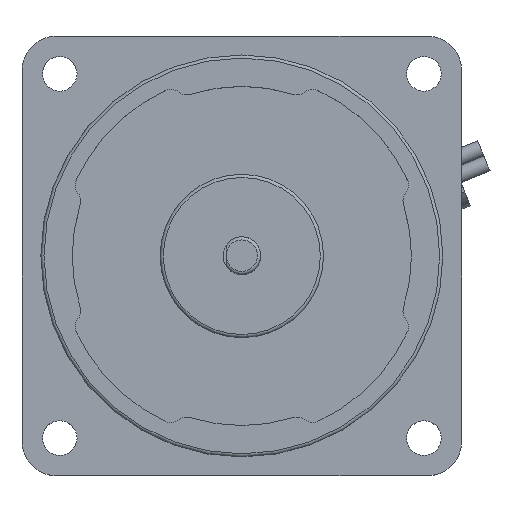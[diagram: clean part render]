
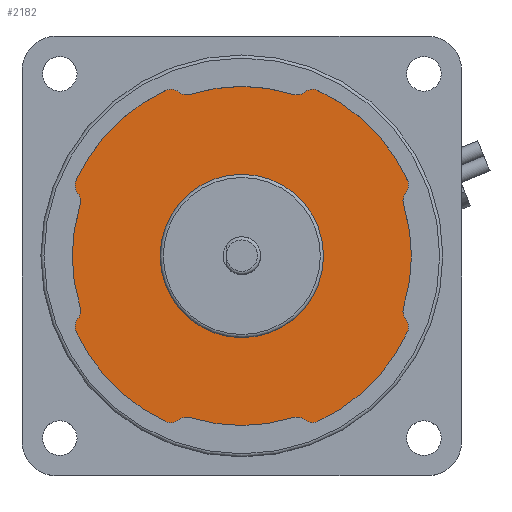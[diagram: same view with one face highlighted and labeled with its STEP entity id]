
A CAD part, top view. The second image highlights one B-rep face of the part: STEP entity #2182.
In plain terms, the highlighted planar face has unit normal (0, 0, 1).
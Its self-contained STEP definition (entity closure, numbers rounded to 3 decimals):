
#1141=CARTESIAN_POINT('',(26.096,-10.,76.));
#1142=VERTEX_POINT('',#1141);
#1158=CARTESIAN_POINT('',(25.744,-8.139,76.0));
#1159=VERTEX_POINT('',#1158);
#1166=CARTESIAN_POINT('',(27.651,-8.742,76.));
#1167=DIRECTION('',(0.0,0.0,-1.));
#1168=DIRECTION('',(-0.903,-0.43,0.0));
#1169=AXIS2_PLACEMENT_3D('',#1166,#1167,#1168);
#1170=CIRCLE('',#1169,2.0);
#1171=EDGE_CURVE('',#1159,#1142,#1170,.F.);
#1181=CARTESIAN_POINT('',(25.744,8.139,76.0));
#1182=VERTEX_POINT('',#1181);
#1191=CARTESIAN_POINT('',(0.,0.,76.0));
#1192=DIRECTION('',(0.0,0.0,1.0));
#1193=DIRECTION('',(-0.93,0.367,0.0));
#1194=AXIS2_PLACEMENT_3D('',#1191,#1192,#1193);
#1195=CIRCLE('',#1194,27.);
#1196=EDGE_CURVE('',#1159,#1182,#1195,.T.);
#1214=CARTESIAN_POINT('',(26.096,10.,76.));
#1215=VERTEX_POINT('',#1214);
#1224=CARTESIAN_POINT('',(27.651,8.742,76.));
#1225=DIRECTION('',(0.0,0.0,-1.));
#1226=DIRECTION('',(-0.903,0.43,0.0));
#1227=AXIS2_PLACEMENT_3D('',#1224,#1225,#1226);
#1228=CIRCLE('',#1227,2.0);
#1229=EDGE_CURVE('',#1215,#1182,#1228,.F.);
#1256=CARTESIAN_POINT('',(26.359,12.092,76.0));
#1257=VERTEX_POINT('',#1256);
#1264=CARTESIAN_POINT('',(24.541,11.258,76.));
#1265=DIRECTION('',(0.0,0.0,1.0));
#1266=DIRECTION('',(-0.777,0.629,0.0));
#1267=AXIS2_PLACEMENT_3D('',#1264,#1265,#1266);
#1268=CIRCLE('',#1267,2.);
#1269=EDGE_CURVE('',#1215,#1257,#1268,.T.);
#1290=CARTESIAN_POINT('',(12.092,26.359,76.0));
#1291=VERTEX_POINT('',#1290);
#1298=CARTESIAN_POINT('',(0.0,0.0,76.0));
#1299=DIRECTION('',(0.0,0.0,1.0));
#1300=DIRECTION('',(-0.93,-0.367,0.0));
#1301=AXIS2_PLACEMENT_3D('',#1298,#1299,#1300);
#1302=CIRCLE('',#1301,29.);
#1303=EDGE_CURVE('',#1257,#1291,#1302,.T.);
#1322=CARTESIAN_POINT('',(10.,26.096,76.));
#1323=VERTEX_POINT('',#1322);
#1330=CARTESIAN_POINT('',(11.258,24.541,76.));
#1331=DIRECTION('',(0.0,0.0,1.));
#1332=DIRECTION('',(-0.417,-0.909,0.0));
#1333=AXIS2_PLACEMENT_3D('',#1330,#1331,#1332);
#1334=CIRCLE('',#1333,2.);
#1335=EDGE_CURVE('',#1291,#1323,#1334,.T.);
#1356=CARTESIAN_POINT('',(8.139,25.744,76.0));
#1357=VERTEX_POINT('',#1356);
#1364=CARTESIAN_POINT('',(8.742,27.651,76.));
#1365=DIRECTION('',(0.0,0.0,-1.));
#1366=DIRECTION('',(0.43,-0.903,0.0));
#1367=AXIS2_PLACEMENT_3D('',#1364,#1365,#1366);
#1368=CIRCLE('',#1367,2.0);
#1369=EDGE_CURVE('',#1357,#1323,#1368,.F.);
#1389=CARTESIAN_POINT('',(-8.139,25.744,76.0));
#1390=VERTEX_POINT('',#1389);
#1397=CARTESIAN_POINT('',(0.,0.,76.0));
#1398=DIRECTION('',(0.0,0.0,1.0));
#1399=DIRECTION('',(-0.367,-0.93,0.0));
#1400=AXIS2_PLACEMENT_3D('',#1397,#1398,#1399);
#1401=CIRCLE('',#1400,27.);
#1402=EDGE_CURVE('',#1357,#1390,#1401,.T.);
#1412=CARTESIAN_POINT('',(-10.,26.096,76.));
#1413=VERTEX_POINT('',#1412);
#1422=CARTESIAN_POINT('',(-8.742,27.651,76.));
#1423=DIRECTION('',(0.0,0.0,-1.));
#1424=DIRECTION('',(-0.43,-0.903,0.0));
#1425=AXIS2_PLACEMENT_3D('',#1422,#1423,#1424);
#1426=CIRCLE('',#1425,2.0);
#1427=EDGE_CURVE('',#1413,#1390,#1426,.F.);
#1454=CARTESIAN_POINT('',(-12.092,26.359,76.0));
#1455=VERTEX_POINT('',#1454);
#1462=CARTESIAN_POINT('',(-11.258,24.541,76.));
#1463=DIRECTION('',(0.0,0.0,1.0));
#1464=DIRECTION('',(-0.629,-0.777,0.0));
#1465=AXIS2_PLACEMENT_3D('',#1462,#1463,#1464);
#1466=CIRCLE('',#1465,2.);
#1467=EDGE_CURVE('',#1413,#1455,#1466,.T.);
#1478=CARTESIAN_POINT('',(-26.359,12.092,76.0));
#1479=VERTEX_POINT('',#1478);
#1488=CARTESIAN_POINT('',(0.0,0.0,76.0));
#1489=DIRECTION('',(0.0,0.0,1.0));
#1490=DIRECTION('',(0.367,-0.93,0.0));
#1491=AXIS2_PLACEMENT_3D('',#1488,#1489,#1490);
#1492=CIRCLE('',#1491,29.);
#1493=EDGE_CURVE('',#1455,#1479,#1492,.T.);
#1520=CARTESIAN_POINT('',(-26.096,10.,76.));
#1521=VERTEX_POINT('',#1520);
#1528=CARTESIAN_POINT('',(-24.541,11.258,76.));
#1529=DIRECTION('',(0.0,0.0,1.0));
#1530=DIRECTION('',(0.909,-0.417,0.0));
#1531=AXIS2_PLACEMENT_3D('',#1528,#1529,#1530);
#1532=CIRCLE('',#1531,2.);
#1533=EDGE_CURVE('',#1479,#1521,#1532,.T.);
#1554=CARTESIAN_POINT('',(-25.744,8.139,76.0));
#1555=VERTEX_POINT('',#1554);
#1562=CARTESIAN_POINT('',(-27.651,8.742,76.));
#1563=DIRECTION('',(0.0,0.0,-1.));
#1564=DIRECTION('',(0.903,0.43,0.0));
#1565=AXIS2_PLACEMENT_3D('',#1562,#1563,#1564);
#1566=CIRCLE('',#1565,2.);
#1567=EDGE_CURVE('',#1555,#1521,#1566,.F.);
#1577=CARTESIAN_POINT('',(-25.744,-8.139,76.0));
#1578=VERTEX_POINT('',#1577);
#1587=CARTESIAN_POINT('',(0.,0.,76.0));
#1588=DIRECTION('',(0.0,0.0,1.));
#1589=DIRECTION('',(0.93,-0.367,0.0));
#1590=AXIS2_PLACEMENT_3D('',#1587,#1588,#1589);
#1591=CIRCLE('',#1590,27.0);
#1592=EDGE_CURVE('',#1555,#1578,#1591,.T.);
#1610=CARTESIAN_POINT('',(-26.096,-10.,76.));
#1611=VERTEX_POINT('',#1610);
#1620=CARTESIAN_POINT('',(-27.651,-8.742,76.));
#1621=DIRECTION('',(0.0,0.0,-1.));
#1622=DIRECTION('',(0.903,-0.43,0.0));
#1623=AXIS2_PLACEMENT_3D('',#1620,#1621,#1622);
#1624=CIRCLE('',#1623,2.);
#1625=EDGE_CURVE('',#1611,#1578,#1624,.F.);
#1652=CARTESIAN_POINT('',(-26.359,-12.092,76.0));
#1653=VERTEX_POINT('',#1652);
#1660=CARTESIAN_POINT('',(-24.541,-11.258,76.));
#1661=DIRECTION('',(0.0,0.0,1.0));
#1662=DIRECTION('',(0.777,-0.629,0.0));
#1663=AXIS2_PLACEMENT_3D('',#1660,#1661,#1662);
#1664=CIRCLE('',#1663,2.);
#1665=EDGE_CURVE('',#1611,#1653,#1664,.T.);
#1676=CARTESIAN_POINT('',(-12.092,-26.359,76.0));
#1677=VERTEX_POINT('',#1676);
#1686=CARTESIAN_POINT('',(0.0,0.0,76.0));
#1687=DIRECTION('',(0.0,0.0,1.0));
#1688=DIRECTION('',(0.93,0.367,0.0));
#1689=AXIS2_PLACEMENT_3D('',#1686,#1687,#1688);
#1690=CIRCLE('',#1689,29.);
#1691=EDGE_CURVE('',#1653,#1677,#1690,.T.);
#1718=CARTESIAN_POINT('',(-10.,-26.096,76.));
#1719=VERTEX_POINT('',#1718);
#1726=CARTESIAN_POINT('',(-11.258,-24.541,76.));
#1727=DIRECTION('',(0.0,0.0,1.0));
#1728=DIRECTION('',(0.417,0.909,0.0));
#1729=AXIS2_PLACEMENT_3D('',#1726,#1727,#1728);
#1730=CIRCLE('',#1729,2.);
#1731=EDGE_CURVE('',#1677,#1719,#1730,.T.);
#1752=CARTESIAN_POINT('',(-8.139,-25.744,76.0));
#1753=VERTEX_POINT('',#1752);
#1760=CARTESIAN_POINT('',(-8.742,-27.651,76.));
#1761=DIRECTION('',(0.0,0.0,-1.));
#1762=DIRECTION('',(-0.43,0.903,0.0));
#1763=AXIS2_PLACEMENT_3D('',#1760,#1761,#1762);
#1764=CIRCLE('',#1763,2.0);
#1765=EDGE_CURVE('',#1753,#1719,#1764,.F.);
#1775=CARTESIAN_POINT('',(8.139,-25.744,76.0));
#1776=VERTEX_POINT('',#1775);
#1785=CARTESIAN_POINT('',(0.,0.,76.0));
#1786=DIRECTION('',(0.0,0.0,1.0));
#1787=DIRECTION('',(0.367,0.93,0.0));
#1788=AXIS2_PLACEMENT_3D('',#1785,#1786,#1787);
#1789=CIRCLE('',#1788,27.);
#1790=EDGE_CURVE('',#1753,#1776,#1789,.T.);
#1808=CARTESIAN_POINT('',(10.,-26.096,76.));
#1809=VERTEX_POINT('',#1808);
#1818=CARTESIAN_POINT('',(8.742,-27.651,76.));
#1819=DIRECTION('',(0.0,0.0,-1.));
#1820=DIRECTION('',(0.43,0.903,0.0));
#1821=AXIS2_PLACEMENT_3D('',#1818,#1819,#1820);
#1822=CIRCLE('',#1821,2.0);
#1823=EDGE_CURVE('',#1809,#1776,#1822,.F.);
#1850=CARTESIAN_POINT('',(12.092,-26.359,76.0));
#1851=VERTEX_POINT('',#1850);
#1858=CARTESIAN_POINT('',(11.258,-24.541,76.));
#1859=DIRECTION('',(0.0,0.0,1.0));
#1860=DIRECTION('',(0.629,0.777,0.0));
#1861=AXIS2_PLACEMENT_3D('',#1858,#1859,#1860);
#1862=CIRCLE('',#1861,2.);
#1863=EDGE_CURVE('',#1809,#1851,#1862,.T.);
#1874=CARTESIAN_POINT('',(26.359,-12.092,76.0));
#1875=VERTEX_POINT('',#1874);
#1884=CARTESIAN_POINT('',(0.0,0.0,76.0));
#1885=DIRECTION('',(0.0,0.0,1.));
#1886=DIRECTION('',(-0.367,0.93,0.0));
#1887=AXIS2_PLACEMENT_3D('',#1884,#1885,#1886);
#1888=CIRCLE('',#1887,29.);
#1889=EDGE_CURVE('',#1851,#1875,#1888,.T.);
#1915=CARTESIAN_POINT('',(24.541,-11.258,76.));
#1916=DIRECTION('',(0.0,0.0,1.0));
#1917=DIRECTION('',(-0.909,0.417,0.0));
#1918=AXIS2_PLACEMENT_3D('',#1915,#1916,#1917);
#1919=CIRCLE('',#1918,2.);
#1920=EDGE_CURVE('',#1875,#1142,#1919,.T.);
#2094=CARTESIAN_POINT('',(13.0,0.,76.));
#2095=VERTEX_POINT('',#2094);
#2096=CARTESIAN_POINT('',(0.0,0.0,76.));
#2097=DIRECTION('',(0.0,0.0,-1.0));
#2098=DIRECTION('',(-1.0,0.0,0.0));
#2099=AXIS2_PLACEMENT_3D('',#2096,#2097,#2098);
#2100=CIRCLE('',#2099,13.0);
#2101=EDGE_CURVE('',#2095,#2095,#2100,.T.);
#2148=CARTESIAN_POINT('',(0.,0.,76.));
#2149=DIRECTION('',(0.0,0.0,1.0));
#2150=DIRECTION('',(1.0,0.0,0.0));
#2151=AXIS2_PLACEMENT_3D('',#2148,#2149,#2150);
#2152=PLANE('',#2151);
#2153=ORIENTED_EDGE('',*,*,#1920,.T.);
#2154=ORIENTED_EDGE('',*,*,#1171,.F.);
#2155=ORIENTED_EDGE('',*,*,#1196,.T.);
#2156=ORIENTED_EDGE('',*,*,#1229,.F.);
#2157=ORIENTED_EDGE('',*,*,#1269,.T.);
#2158=ORIENTED_EDGE('',*,*,#1303,.T.);
#2159=ORIENTED_EDGE('',*,*,#1335,.T.);
#2160=ORIENTED_EDGE('',*,*,#1369,.F.);
#2161=ORIENTED_EDGE('',*,*,#1402,.T.);
#2162=ORIENTED_EDGE('',*,*,#1427,.F.);
#2163=ORIENTED_EDGE('',*,*,#1467,.T.);
#2164=ORIENTED_EDGE('',*,*,#1493,.T.);
#2165=ORIENTED_EDGE('',*,*,#1533,.T.);
#2166=ORIENTED_EDGE('',*,*,#1567,.F.);
#2167=ORIENTED_EDGE('',*,*,#1592,.T.);
#2168=ORIENTED_EDGE('',*,*,#1625,.F.);
#2169=ORIENTED_EDGE('',*,*,#1665,.T.);
#2170=ORIENTED_EDGE('',*,*,#1691,.T.);
#2171=ORIENTED_EDGE('',*,*,#1731,.T.);
#2172=ORIENTED_EDGE('',*,*,#1765,.F.);
#2173=ORIENTED_EDGE('',*,*,#1790,.T.);
#2174=ORIENTED_EDGE('',*,*,#1823,.F.);
#2175=ORIENTED_EDGE('',*,*,#1863,.T.);
#2176=ORIENTED_EDGE('',*,*,#1889,.T.);
#2177=EDGE_LOOP('',(#2153,#2154,#2155,#2156,#2157,#2158,#2159,#2160,#2161,#2162,#2163,#2164,#2165,#2166,#2167,#2168,#2169,#2170,#2171,#2172,#2173,#2174,#2175,#2176));
#2178=FACE_OUTER_BOUND('',#2177,.T.);
#2179=ORIENTED_EDGE('',*,*,#2101,.T.);
#2180=EDGE_LOOP('',(#2179));
#2181=FACE_BOUND('',#2180,.T.);
#2182=ADVANCED_FACE('',(#2178,#2181),#2152,.T.);
